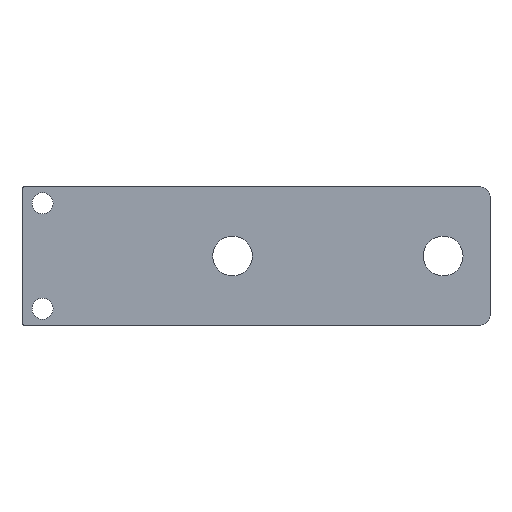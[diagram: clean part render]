
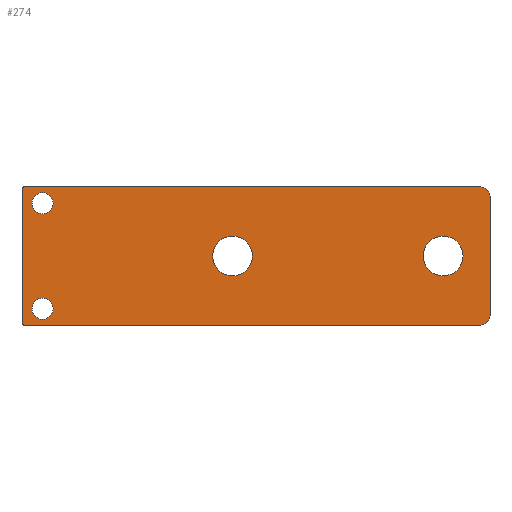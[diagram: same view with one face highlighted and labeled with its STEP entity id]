
A CAD part, top view. The second image highlights one B-rep face of the part: STEP entity #274.
In plain terms, the highlighted planar face has unit normal (0, 0, 1).
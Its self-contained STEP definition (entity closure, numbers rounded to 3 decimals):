
#19=FACE_BOUND('',#61,.T.);
#20=FACE_BOUND('',#62,.T.);
#21=FACE_BOUND('',#63,.T.);
#22=FACE_BOUND('',#64,.T.);
#28=PLANE('',#327);
#42=FACE_OUTER_BOUND('',#60,.T.);
#60=EDGE_LOOP('',(#241,#242,#243,#244,#245,#246,#247,#248));
#61=EDGE_LOOP('',(#249));
#62=EDGE_LOOP('',(#250));
#63=EDGE_LOOP('',(#251));
#64=EDGE_LOOP('',(#252));
#71=LINE('',#437,#91);
#77=LINE('',#461,#97);
#80=LINE('',#469,#100);
#84=LINE('',#483,#104);
#91=VECTOR('',#356,10.);
#97=VECTOR('',#380,10.);
#100=VECTOR('',#389,10.);
#104=VECTOR('',#407,10.);
#105=CIRCLE('',#299,4.25);
#107=CIRCLE('',#302,4.25);
#109=CIRCLE('',#305,2.);
#116=CIRCLE('',#315,2.);
#117=CIRCLE('',#318,0.5);
#118=CIRCLE('',#321,0.5);
#119=CIRCLE('',#323,2.25);
#120=CIRCLE('',#325,2.25);
#121=VERTEX_POINT('',#412);
#123=VERTEX_POINT('',#418);
#125=VERTEX_POINT('',#424);
#126=VERTEX_POINT('',#425);
#130=VERTEX_POINT('',#435);
#138=VERTEX_POINT('',#455);
#139=VERTEX_POINT('',#459);
#140=VERTEX_POINT('',#463);
#141=VERTEX_POINT('',#464);
#142=VERTEX_POINT('',#471);
#143=VERTEX_POINT('',#475);
#144=VERTEX_POINT('',#479);
#145=EDGE_CURVE('',#121,#121,#105,.T.);
#148=EDGE_CURVE('',#123,#123,#107,.T.);
#151=EDGE_CURVE('',#125,#126,#109,.T.);
#157=EDGE_CURVE('',#130,#125,#71,.T.);
#166=EDGE_CURVE('',#138,#130,#116,.T.);
#169=EDGE_CURVE('',#139,#138,#77,.T.);
#170=EDGE_CURVE('',#140,#141,#117,.T.);
#173=EDGE_CURVE('',#126,#140,#80,.T.);
#174=EDGE_CURVE('',#142,#139,#118,.T.);
#177=EDGE_CURVE('',#143,#143,#119,.T.);
#179=EDGE_CURVE('',#144,#144,#120,.T.);
#180=EDGE_CURVE('',#141,#142,#84,.T.);
#241=ORIENTED_EDGE('',*,*,#151,.F.);
#242=ORIENTED_EDGE('',*,*,#157,.F.);
#243=ORIENTED_EDGE('',*,*,#166,.F.);
#244=ORIENTED_EDGE('',*,*,#169,.F.);
#245=ORIENTED_EDGE('',*,*,#174,.F.);
#246=ORIENTED_EDGE('',*,*,#180,.F.);
#247=ORIENTED_EDGE('',*,*,#170,.F.);
#248=ORIENTED_EDGE('',*,*,#173,.F.);
#249=ORIENTED_EDGE('',*,*,#145,.T.);
#250=ORIENTED_EDGE('',*,*,#148,.T.);
#251=ORIENTED_EDGE('',*,*,#177,.T.);
#252=ORIENTED_EDGE('',*,*,#179,.T.);
#274=ADVANCED_FACE('',(#42,#19,#20,#21,#22),#28,.T.);
#299=AXIS2_PLACEMENT_3D('',#413,#332,#333);
#302=AXIS2_PLACEMENT_3D('',#419,#339,#340);
#305=AXIS2_PLACEMENT_3D('',#426,#346,#347);
#315=AXIS2_PLACEMENT_3D('',#456,#374,#375);
#318=AXIS2_PLACEMENT_3D('',#465,#383,#384);
#321=AXIS2_PLACEMENT_3D('',#472,#392,#393);
#323=AXIS2_PLACEMENT_3D('',#477,#398,#399);
#325=AXIS2_PLACEMENT_3D('',#481,#403,#404);
#327=AXIS2_PLACEMENT_3D('',#484,#408,#409);
#332=DIRECTION('center_axis',(0.,0.,-1.));
#333=DIRECTION('ref_axis',(-1.,0.,0.));
#339=DIRECTION('center_axis',(0.,0.,-1.));
#340=DIRECTION('ref_axis',(-1.,0.,0.));
#346=DIRECTION('center_axis',(0.,0.,-1.));
#347=DIRECTION('ref_axis',(0.707,-0.707,0.));
#356=DIRECTION('',(0.,-1.,0.));
#374=DIRECTION('center_axis',(0.,0.,-1.));
#375=DIRECTION('ref_axis',(0.707,0.707,0.));
#380=DIRECTION('',(1.,0.,0.));
#383=DIRECTION('center_axis',(0.,0.,-1.));
#384=DIRECTION('ref_axis',(-0.707,-0.707,0.));
#389=DIRECTION('',(-1.,0.,0.));
#392=DIRECTION('center_axis',(0.,0.,-1.));
#393=DIRECTION('ref_axis',(-0.707,0.707,0.));
#398=DIRECTION('center_axis',(0.,0.,-1.));
#399=DIRECTION('ref_axis',(-1.,0.,0.));
#403=DIRECTION('center_axis',(0.,0.,-1.));
#404=DIRECTION('ref_axis',(-1.,0.,0.));
#407=DIRECTION('',(0.,1.,0.));
#408=DIRECTION('center_axis',(0.,0.,1.));
#409=DIRECTION('ref_axis',(1.,0.,0.));
#412=CARTESIAN_POINT('',(94.25,0.,2.));
#413=CARTESIAN_POINT('Origin',(90.,0.,2.));
#418=CARTESIAN_POINT('',(49.25,0.,2.));
#419=CARTESIAN_POINT('Origin',(45.,0.,2.));
#424=CARTESIAN_POINT('',(100.,-12.75,2.));
#425=CARTESIAN_POINT('',(98.,-14.75,2.));
#426=CARTESIAN_POINT('Origin',(98.,-12.75,2.));
#435=CARTESIAN_POINT('',(100.,12.75,2.));
#437=CARTESIAN_POINT('',(100.,14.75,2.));
#455=CARTESIAN_POINT('',(98.,14.75,2.));
#456=CARTESIAN_POINT('Origin',(98.,12.75,2.));
#459=CARTESIAN_POINT('',(0.5,14.75,2.));
#461=CARTESIAN_POINT('',(0.,14.75,2.));
#463=CARTESIAN_POINT('',(0.5,-14.75,2.));
#464=CARTESIAN_POINT('',(0.,-14.25,2.));
#465=CARTESIAN_POINT('Origin',(0.5,-14.25,2.));
#469=CARTESIAN_POINT('',(100.,-14.75,2.));
#471=CARTESIAN_POINT('',(0.,14.25,2.));
#472=CARTESIAN_POINT('Origin',(0.5,14.25,2.));
#475=CARTESIAN_POINT('',(6.65,-11.25,2.));
#477=CARTESIAN_POINT('Origin',(4.4,-11.25,2.));
#479=CARTESIAN_POINT('',(6.65,11.25,2.));
#481=CARTESIAN_POINT('Origin',(4.4,11.25,2.));
#483=CARTESIAN_POINT('',(0.,-14.75,2.));
#484=CARTESIAN_POINT('Origin',(50.,0.,2.));
